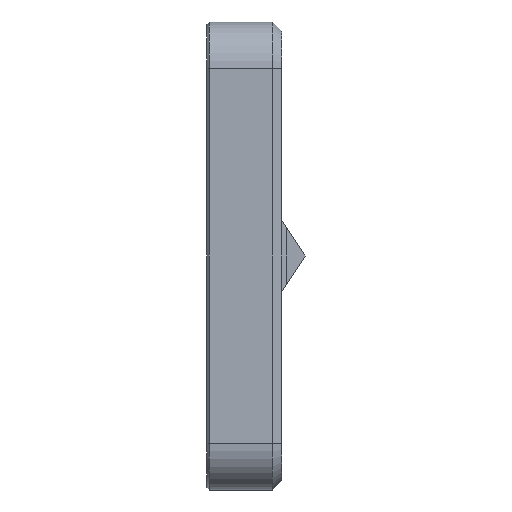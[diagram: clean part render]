
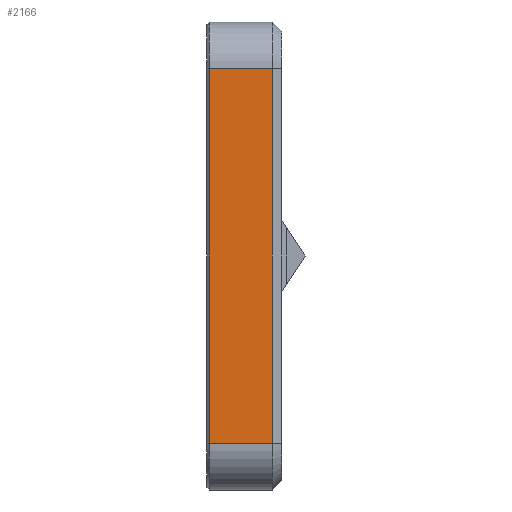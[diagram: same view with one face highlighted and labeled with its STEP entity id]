
A CAD part, left-side view. The second image highlights one B-rep face of the part: STEP entity #2166.
In plain terms, the highlighted planar face has unit normal (-1, 0, 0).
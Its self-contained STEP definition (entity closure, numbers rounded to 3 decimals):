
#96 = CARTESIAN_POINT ( 'NONE',  ( -50., 3.5, -50. ) ) ;
#108 = ORIENTED_EDGE ( 'NONE', *, *, #1495, .T. ) ;
#165 = CARTESIAN_POINT ( 'NONE',  ( -50., 17., -40. ) ) ;
#175 = VECTOR ( 'NONE', #1030, 1000. ) ;
#209 = DIRECTION ( 'NONE',  ( 0., 0., -1. ) ) ;
#213 = VERTEX_POINT ( 'NONE', #1052 ) ;
#285 = VECTOR ( 'NONE', #932, 1000. ) ;
#323 = DIRECTION ( 'NONE',  ( 0., -1., 0. ) ) ;
#460 = FACE_OUTER_BOUND ( 'NONE', #1592, .T. ) ;
#504 = LINE ( 'NONE', #96, #285 ) ;
#609 = CARTESIAN_POINT ( 'NONE',  ( -50., 3.5, -40. ) ) ;
#681 = CARTESIAN_POINT ( 'NONE',  ( -50., 17.5, -50. ) ) ;
#699 = VERTEX_POINT ( 'NONE', #609 ) ;
#720 = EDGE_CURVE ( 'NONE', #213, #815, #1627, .T. ) ;
#815 = VERTEX_POINT ( 'NONE', #1187 ) ;
#932 = DIRECTION ( 'NONE',  ( 0., 0., 1. ) ) ;
#991 = CARTESIAN_POINT ( 'NONE',  ( -50., 17.5, 40. ) ) ;
#1007 = ORIENTED_EDGE ( 'NONE', *, *, #720, .T. ) ;
#1030 = DIRECTION ( 'NONE',  ( 0., 1., 0. ) ) ;
#1052 = CARTESIAN_POINT ( 'NONE',  ( -50., 3.5, 40. ) ) ;
#1187 = CARTESIAN_POINT ( 'NONE',  ( -50., 17., 40. ) ) ;
#1381 = AXIS2_PLACEMENT_3D ( 'NONE', #681, #2613, #2171 ) ;
#1442 = EDGE_CURVE ( 'NONE', #2595, #699, #1568, .T. ) ;
#1495 = EDGE_CURVE ( 'NONE', #699, #213, #504, .T. ) ;
#1568 = LINE ( 'NONE', #1609, #1924 ) ;
#1592 = EDGE_LOOP ( 'NONE', ( #1007, #1820, #2599, #108 ) ) ;
#1609 = CARTESIAN_POINT ( 'NONE',  ( -50., 17.5, -40. ) ) ;
#1627 = LINE ( 'NONE', #991, #175 ) ;
#1820 = ORIENTED_EDGE ( 'NONE', *, *, #2730, .T. ) ;
#1924 = VECTOR ( 'NONE', #323, 1000. ) ;
#2112 = VECTOR ( 'NONE', #209, 1000. ) ;
#2166 = ADVANCED_FACE ( 'NONE', ( #460 ), #2598, .F. ) ;
#2171 = DIRECTION ( 'NONE',  ( 0., 0., -1. ) ) ;
#2337 = LINE ( 'NONE', #165, #2112 ) ;
#2595 = VERTEX_POINT ( 'NONE', #2662 ) ;
#2598 = PLANE ( 'NONE',  #1381 ) ;
#2599 = ORIENTED_EDGE ( 'NONE', *, *, #1442, .T. ) ;
#2613 = DIRECTION ( 'NONE',  ( 1., 0., 0. ) ) ;
#2662 = CARTESIAN_POINT ( 'NONE',  ( -50., 17., -40. ) ) ;
#2730 = EDGE_CURVE ( 'NONE', #815, #2595, #2337, .T. ) ;
